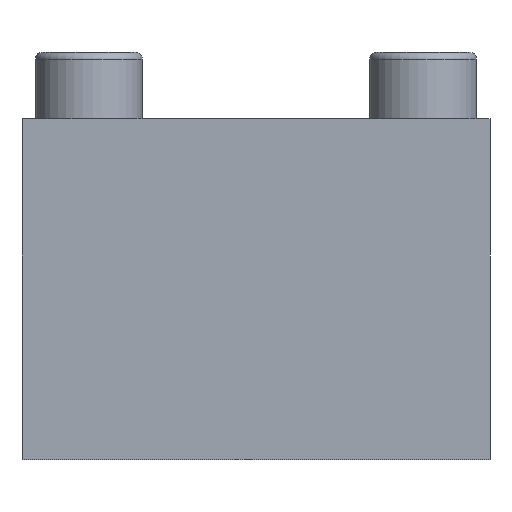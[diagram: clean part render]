
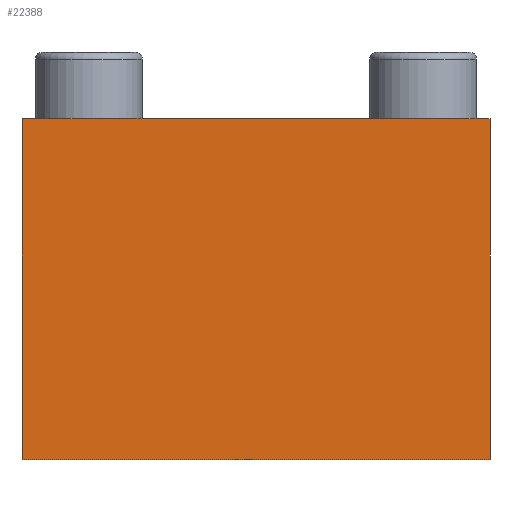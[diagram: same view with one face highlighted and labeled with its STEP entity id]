
A CAD part, front view. The second image highlights one B-rep face of the part: STEP entity #22388.
In plain terms, the highlighted planar face has unit normal (0, -1, 0).
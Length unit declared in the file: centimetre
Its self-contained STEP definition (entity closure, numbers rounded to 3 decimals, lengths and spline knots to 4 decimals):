
#1020=LINE('',#28778,#3508);
#1688=LINE('',#31428,#4176);
#1691=LINE('',#31434,#4179);
#1692=LINE('',#31435,#4180);
#3508=VECTOR('',#24499,7.);
#4176=VECTOR('',#25185,5.1);
#4179=VECTOR('',#25190,5.1);
#4180=VECTOR('',#25191,7.);
#5997=PLANE('',#23592);
#6973=FACE_OUTER_BOUND('',#8256,.T.);
#8256=EDGE_LOOP('',(#15764,#15765,#15766,#15767));
#9502=VERTEX_POINT('',#28775);
#9503=VERTEX_POINT('',#28777);
#10436=VERTEX_POINT('',#31427);
#10438=VERTEX_POINT('',#31433);
#11632=EDGE_CURVE('',#9502,#9503,#1020,.T.);
#12566=EDGE_CURVE('',#9502,#10436,#1688,.T.);
#12569=EDGE_CURVE('',#9503,#10438,#1691,.T.);
#12570=EDGE_CURVE('',#10438,#10436,#1692,.T.);
#15764=ORIENTED_EDGE('',*,*,#12569,.F.);
#15765=ORIENTED_EDGE('',*,*,#11632,.F.);
#15766=ORIENTED_EDGE('',*,*,#12566,.T.);
#15767=ORIENTED_EDGE('',*,*,#12570,.F.);
#22388=ADVANCED_FACE('',(#6973),#5997,.T.);
#23592=AXIS2_PLACEMENT_3D('',#31432,#25188,#25189);
#24499=DIRECTION('',(1.,0.,0.));
#25185=DIRECTION('',(0.,0.,-1.));
#25188=DIRECTION('center_axis',(0.,-1.,0.));
#25189=DIRECTION('ref_axis',(-1.,0.,0.));
#25190=DIRECTION('',(0.,0.,-1.));
#25191=DIRECTION('',(-1.,0.,0.));
#28775=CARTESIAN_POINT('',(-3.5,-7.,4.1));
#28777=CARTESIAN_POINT('',(3.5,-7.,4.1));
#28778=CARTESIAN_POINT('',(3.5,-7.,4.1));
#31427=CARTESIAN_POINT('',(-3.5,-7.,-1.));
#31428=CARTESIAN_POINT('',(-3.5,-7.,0.));
#31432=CARTESIAN_POINT('Origin',(3.5,-7.,3.1));
#31433=CARTESIAN_POINT('',(3.5,-7.,-1.));
#31434=CARTESIAN_POINT('',(3.5,-7.,0.));
#31435=CARTESIAN_POINT('',(3.5,-7.,-1.));
